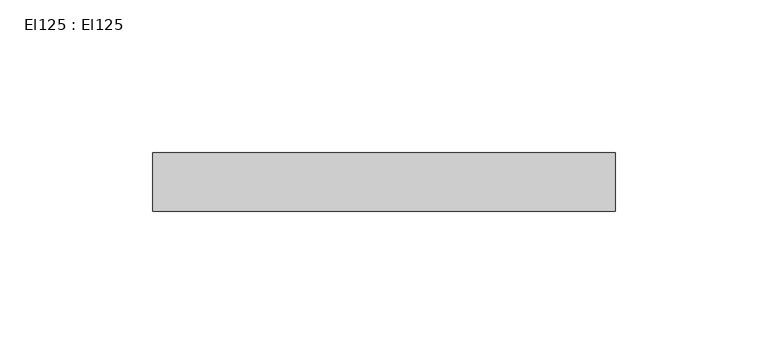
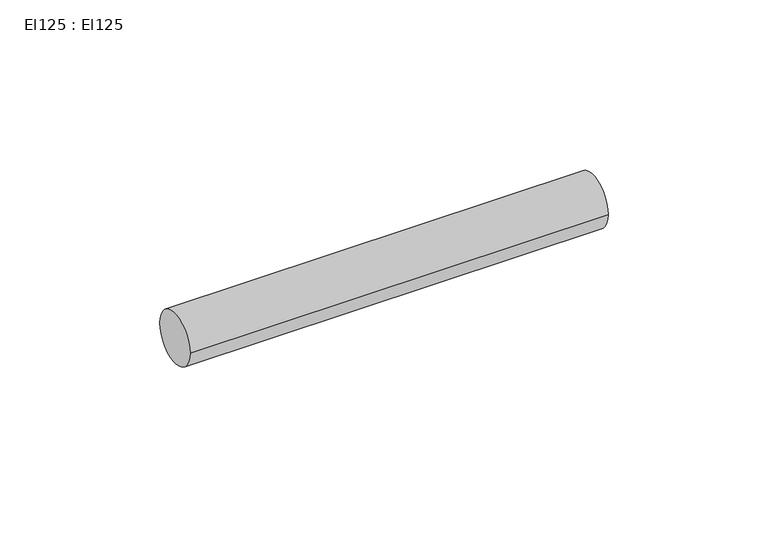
"""IFC4 building model written with IfcOpenShell, lengths in millimetres: cable carrier segment geometry, El125 : El125."""

from ifc_helpers import new_model, si_unit, point, frame, frame_2d, origin, place, context, project, spatial, circle_curve, trimmed, segment, composite_curve, outline, extrude, source, transform, mapped, element, save


def el125_el125_5aa8376b(model_context):
    return source(origin(), model_context, "Body", "SweptSolid", [
        extrude(outline(composite_curve([segment(trimmed(circle_curve(frame_2d((13172.1, 1200.0)), 9.5), [point((13162.6, 1200.0))], [point((13181.6, 1200.0))], False, "CARTESIAN"), True, "CONTINUOUS"), segment(trimmed(circle_curve(frame_2d((13172.1, 1200.0)), 9.5), [point((13181.6, 1200.0))], [point((13162.6, 1200.0))], False, "CARTESIAN"), True, "CONTINUOUS")], self_intersect=False)), frame((31393.6238, 0.0, 0.0), z_axis=(1.0, 0.0, 0.0), x_axis=(0.0, 1.0, 0.0)), (0.0, 0.0, 1.0), 151.152),
    ])


if __name__ == "__main__":
    model = new_model("IFC4")
    model_context = context("Model", 3, world=origin())
    ifc_project = project(units=[si_unit("LENGTHUNIT", "METRE", prefix="MILLI")], contexts=[model_context])
    site = spatial("IfcSite", under=ifc_project)
    building = spatial("IfcBuilding", under=site)
    placement = place(None, origin())
    el125_el125_shape = el125_el125_5aa8376b(model_context)
    element("IfcCableCarrierSegment", 1, ObjectType="El125 : El125", at=placement, inside=building, context=model_context, shape_type="MappedRepresentation", body=[
        mapped(el125_el125_shape, transform((0.0, 0.0, 0.0), x_axis=(1.0, 0.0, 0.0), y_axis=(0.0, 1.0, 0.0), z_axis=(0.0, 0.0, 1.0))),
    ])
    save(model, "model.ifc")
